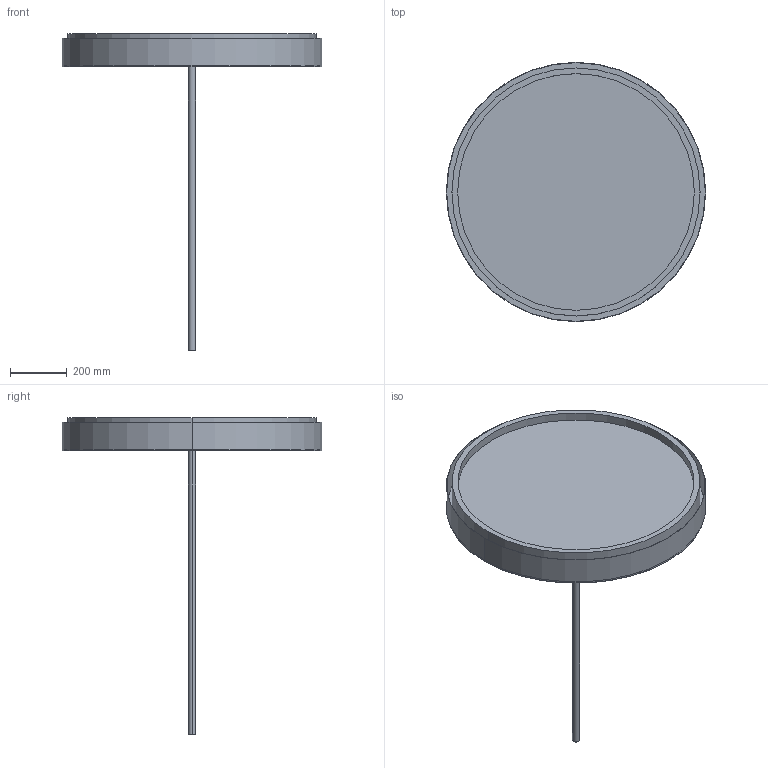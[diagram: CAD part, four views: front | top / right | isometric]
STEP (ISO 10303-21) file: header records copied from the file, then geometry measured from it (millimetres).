
FILE_DESCRIPTION (( 'STEP AP203' ), '1' );
FILE_NAME ('Okr¹g³a zwieszana 915.STEP', '2020-07-12T21:20:03', ( '' ), ( '' ), 'SwSTEP 2.0', 'SolidWorks 2012', '' );
FILE_SCHEMA (( 'CONFIG_CONTROL_DESIGN' ));
Length unit declared in the file: millimetre
Products named in the file (1): Okr鉚豉 zwieszana 915
Bounding box: 915 x 915 x 1117.6 mm (x, y, z)
Volume: 10970144.5 mm3; surface area: 3727878.6 mm2
Topology: 2 solids, 3 shells, 29 faces, 54 edges, 36 vertices
Faces by surface type: cylinder 18, plane 11
Entity records: 821 total; most frequent: DIRECTION 150, CARTESIAN_POINT 120, ORIENTED_EDGE 108, AXIS2_PLACEMENT_3D 66, EDGE_CURVE 54, CIRCLE 36, VERTEX_POINT 36, EDGE_LOOP 36
